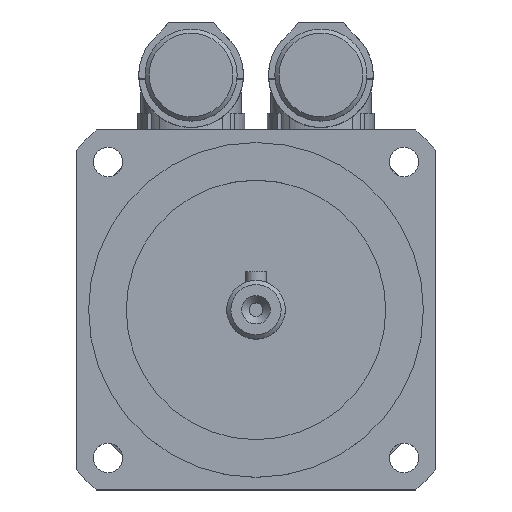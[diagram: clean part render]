
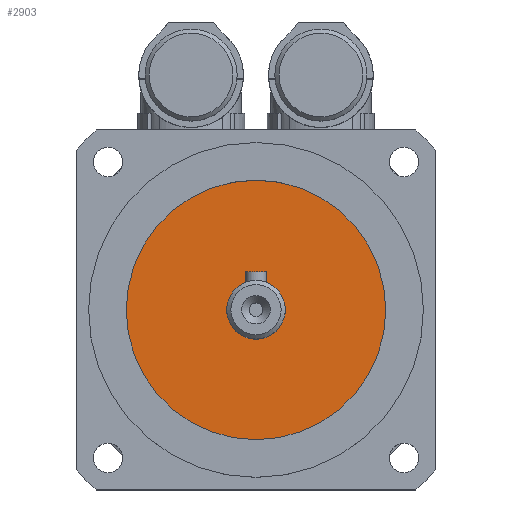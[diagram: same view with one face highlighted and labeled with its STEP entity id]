
A CAD part, top view. The second image highlights one B-rep face of the part: STEP entity #2903.
In plain terms, the highlighted planar face has unit normal (0, 0, 1).
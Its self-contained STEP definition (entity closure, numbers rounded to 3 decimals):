
#607=PLANE('',#3061);
#667=CIRCLE('',#3048,7.);
#676=CIRCLE('',#3059,31.);
#1149=VERTEX_POINT('',#4233);
#1158=VERTEX_POINT('',#4325);
#1440=EDGE_CURVE('',#1149,#1149,#667,.T.);
#1449=EDGE_CURVE('',#1158,#1158,#676,.T.);
#1828=ORIENTED_EDGE('',*,*,#1449,.T.);
#1829=ORIENTED_EDGE('',*,*,#1440,.T.);
#2522=EDGE_LOOP('',(#1828));
#2523=EDGE_LOOP('',(#1829));
#2718=FACE_BOUND('',#2522,.T.);
#2719=FACE_BOUND('',#2523,.T.);
#2903=ADVANCED_FACE('',(#2718,#2719),#607,.F.);
#3048=AXIS2_PLACEMENT_3D('',#4232,#3350,#3351);
#3059=AXIS2_PLACEMENT_3D('',#4324,#3371,#3372);
#3061=AXIS2_PLACEMENT_3D('',#4328,#3375,$);
#3350=DIRECTION('',(0.,0.,-1.));
#3351=DIRECTION('',(-7.,0.,0.));
#3371=DIRECTION('',(0.,0.,1.));
#3372=DIRECTION('',(-31.,0.,0.));
#3375=DIRECTION('',(0.,0.,-1.));
#4232=CARTESIAN_POINT('',(0.,0.,95.5));
#4233=CARTESIAN_POINT('',(7.,0.,95.5));
#4324=CARTESIAN_POINT('',(0.,0.,95.5));
#4325=CARTESIAN_POINT('',(31.,0.,95.5));
#4328=CARTESIAN_POINT('',(0.,0.,95.5));
